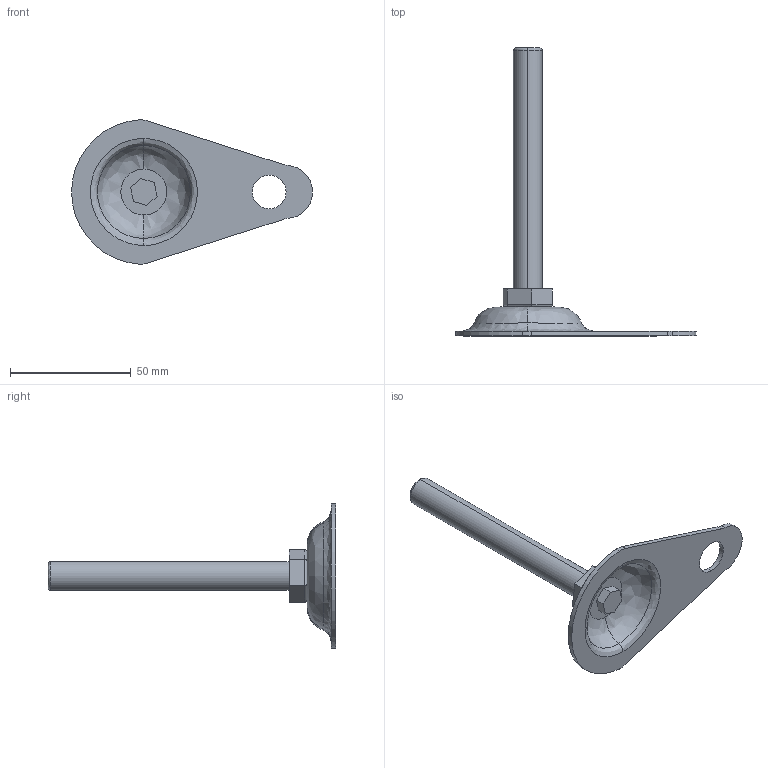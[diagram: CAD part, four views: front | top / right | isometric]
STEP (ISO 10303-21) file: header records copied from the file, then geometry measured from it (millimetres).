
FILE_DESCRIPTION (( 'STEP AP203' ), '1' );
FILE_NAME ('DY-K15512100S.STEP', '2022-05-10T05:28:43', ( '' ), ( '' ), 'SwSTEP 2.0', 'SolidWorks 2017', '' );
FILE_SCHEMA (( 'CONFIG_CONTROL_DESIGN' ));
Length unit declared in the file: millimetre
Products named in the file (4): 六角螺絲 M12-100L_預設; F60 base_預設; DY-K15512100S; 六角螺絲 M6-10L_預設
Assembly tree (3 placements, depth 2):
  DY-K15512100S
    六角螺絲 M12-100L_預設
    F60 base_預設
    六角螺絲 M6-10L_預設
Bounding box: 99.96 x 119.5 x 59.88 mm (x, y, z)
Volume: 26098.6 mm3; surface area: 14971 mm2
Topology: 3 solids, 3 shells, 58 faces, 129 edges, 82 vertices
Faces by surface type: plane 25, cylinder 23, bspline 10
Entity records: 2517 total; most frequent: CARTESIAN_POINT 849, DIRECTION 269, ORIENTED_EDGE 258, EDGE_CURVE 129, AXIS2_PLACEMENT_3D 102, VERTEX_POINT 82, EDGE_LOOP 67, LINE 65
